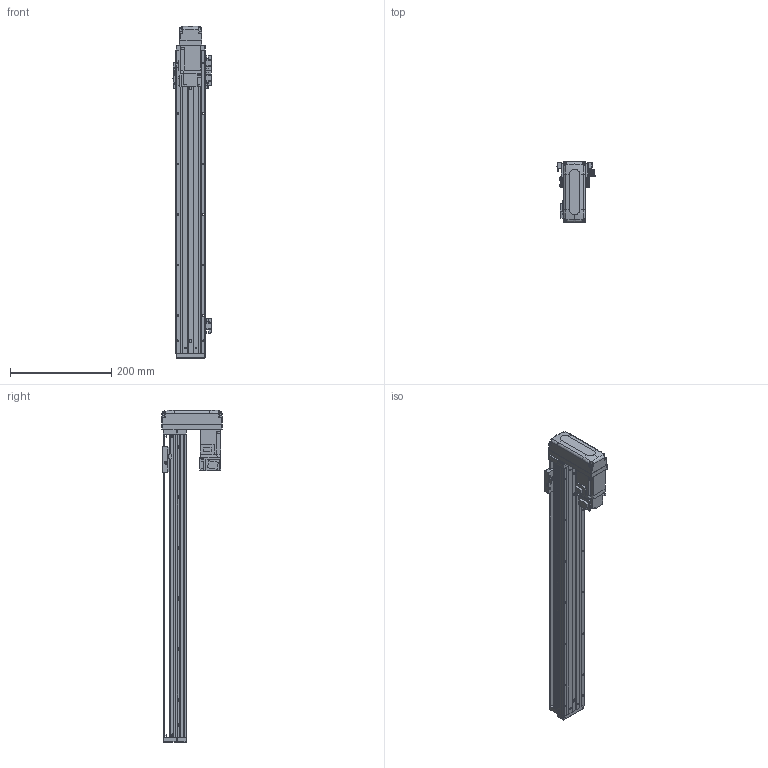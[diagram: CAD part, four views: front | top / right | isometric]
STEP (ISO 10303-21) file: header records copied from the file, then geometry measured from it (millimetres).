
FILE_DESCRIPTION (( 'STEP AP203' ), '1' );
FILE_NAME ('KTHA50-500-BM-M10-C4L.step', '2022-03-19T07:11:53', ( '微软用户' ), ( '微软中国' ), 'SwSTEP 2.0', 'SolidWorks 2020', '' );
FILE_SCHEMA (( 'CONFIG_CONTROL_DESIGN' ));
Length unit declared in the file: millimetre
Products named in the file (18): CTHA60-021; EE_SX911P_R; GBT 70.3-M3℅6; GBT77-2000 M3×3; HG-KR13（三菱）; KTHA50-001_600; GBT 70.1-M3℅6; CTHA50-015-2_CTHA60-015-2; KTHA50-002; CTHA60-017; CTHA60-033; KTHA50-004; GBT 70.1-M4×12; GBT 70.1-M3×15; KTHA50-005; CTHA60-016; KTHA50-500-BM-M10-C4L; GB¨uT 70.2-M3¡Á6_M3¡Á6
Assembly tree (53 placements, depth 2):
  KTHA50-500-BM-M10-C4L
    KTHA50-001_600
    KTHA50-002
    KTHA50-004
    KTHA50-005
    GB¨uT 70.2-M3¡Á6_M3¡Á6  x6
    EE_SX911P_R  x3
    GBT77-2000 M3×3  x6
    GBT 70.1-M3℅6  x6
    CTHA60-017  x3
    GBT 70.1-M4×12  x10
    CTHA60-016  x2
    CTHA60-021  x2
    GBT 70.3-M3℅6  x4
    HG-KR13（三菱）
    CTHA50-015-2_CTHA60-015-2
    CTHA60-033
    GBT 70.1-M3×15  x4
Bounding box: 75.22 x 120 x 657 mm (x, y, z)
Volume: 1343350.8 mm3; surface area: 329405.7 mm2
Topology: 56 solids, 56 shells, 2283 faces, 5407 edges, 3316 vertices
Faces by surface type: plane 1276, cylinder 556, cone 309, torus 100, bspline 26, sphere 16
Entity records: 38881 total; most frequent: CARTESIAN_POINT 7346, DIRECTION 6075, ORIENTED_EDGE 5826, EDGE_CURVE 2913, AXIS2_PLACEMENT_3D 2061, LINE 1953, VECTOR 1953, VERTEX_POINT 1830
